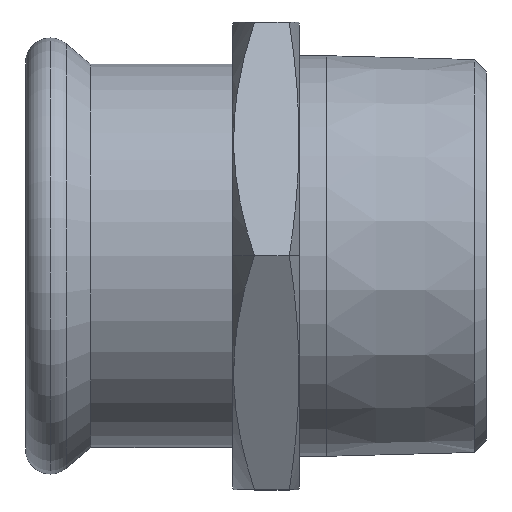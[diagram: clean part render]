
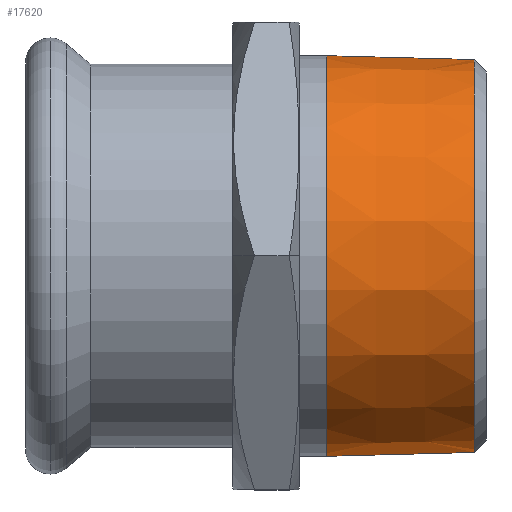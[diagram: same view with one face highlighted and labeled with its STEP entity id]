
A CAD part, top view. The second image highlights one B-rep face of the part: STEP entity #17620.
In plain terms, the highlighted conical face has half-angle 1.5 degrees and reference radius 29.3 mm.
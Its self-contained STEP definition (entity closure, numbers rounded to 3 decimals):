
#10=CARTESIAN_POINT('',(-51.571,-716.257,
0.));
#20=DIRECTION('',(-1.,0.,0.));
#30=DIRECTION('',(0.,-1.,0.));
#40=AXIS2_PLACEMENT_3D('',#10,#20,#30);
#50=CONICAL_SURFACE('',#40,29.3,0.026);
#60=CARTESIAN_POINT('',(-51.571,-686.957,
0.));
#70=DIRECTION('',(-1.,0.026,
0.));
#80=VECTOR('',#70,1119.305);
#90=LINE('',#60,#80);
#100=CARTESIAN_POINT('',(-55.67,-686.849,
0.));
#110=VERTEX_POINT('',#100);
#120=CARTESIAN_POINT('',(-77.771,-686.271,
0.));
#130=VERTEX_POINT('',#120);
#140=EDGE_CURVE('',#110,#130,#90,.T.);
#160=CARTESIAN_POINT('',(-77.771,-716.257,
0.));
#170=DIRECTION('',(-1.,0.,0.));
#180=DIRECTION('',(0.,-1.,0.));
#190=AXIS2_PLACEMENT_3D('',#160,#170,#180);
#200=CIRCLE('',#190,29.986);
#210=CARTESIAN_POINT('',(-77.771,-746.243,
0.));
#220=VERTEX_POINT('',#210);
#250=CARTESIAN_POINT('',(-51.571,-745.557,
0.));
#260=DIRECTION('',(-1.,-0.026,
0.));
#270=VECTOR('',#260,1119.305);
#280=LINE('',#250,#270);
#290=CARTESIAN_POINT('',(-55.67,-745.664,
0.));
#300=VERTEX_POINT('',#290);
#310=EDGE_CURVE('',#300,#220,#280,.T.);
#330=CARTESIAN_POINT('',(-55.67,-716.257,
0.));
#340=DIRECTION('',(-1.,0.,0.));
#350=DIRECTION('',(0.,-1.,0.));
#360=AXIS2_PLACEMENT_3D('',#330,#340,#350);
#370=CIRCLE('',#360,29.407);
#990=EDGE_CURVE('',#220,#130,#200,.T.);
#17550=ORIENTED_EDGE('',*,*,#990,.F.);
#17560=ORIENTED_EDGE('',*,*,#140,.T.);
#17570=EDGE_CURVE('',#300,#110,#370,.T.);
#17580=ORIENTED_EDGE('',*,*,#17570,.T.);
#17590=ORIENTED_EDGE('',*,*,#310,.F.);
#17600=EDGE_LOOP('',(#17590,#17580,#17560,#17550));
#17610=FACE_OUTER_BOUND('',#17600,.T.);
#17620=ADVANCED_FACE('',(#17610),#50,.T.);
